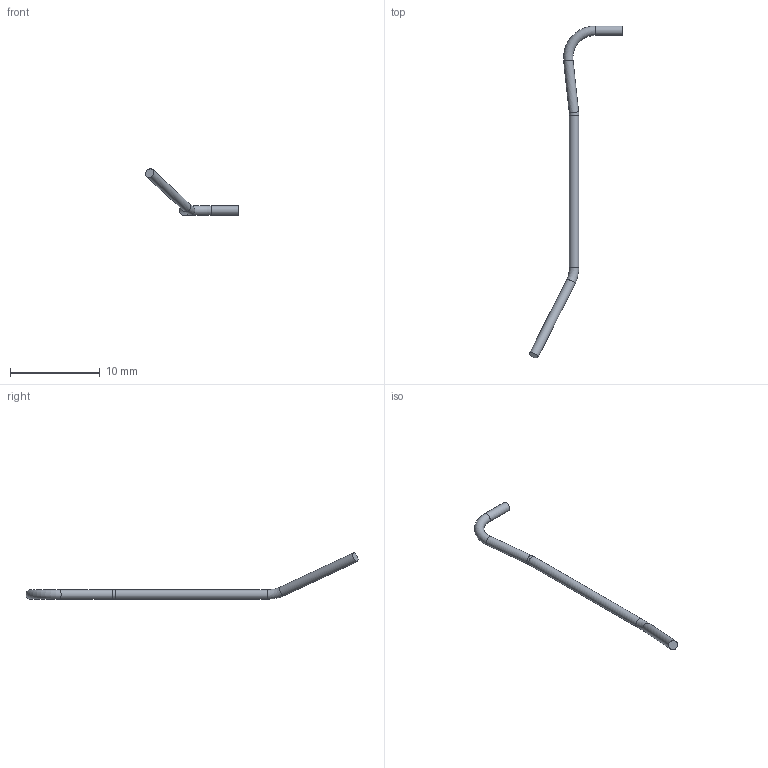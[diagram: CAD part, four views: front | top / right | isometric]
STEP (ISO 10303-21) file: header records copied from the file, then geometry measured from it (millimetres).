
FILE_DESCRIPTION(('Open CASCADE Model'),'2;1');
FILE_NAME('Open CASCADE Shape Model','2026-09-15T14:06:45',('Author'),( 'Open CASCADE'),'Open CASCADE STEP processor 7.7','Open CASCADE 7.7' ,'Unknown');
FILE_SCHEMA(('AUTOMOTIVE_DESIGN { 1 0 10303 214 1 1 1 1 }'));
Length unit declared in the file: millimetre
Products named in the file (1): J9_COMMON_BRANCH_3_OD1p05_R3
Bounding box: 10.38 x 36.97 x 5.16 mm (x, y, z)
Volume: 37.1 mm3; surface area: 142.9 mm2
Topology: 1 solids, 1 shells, 9 faces, 15 edges, 8 vertices
Faces by surface type: cylinder 4, torus 3, plane 2
Full cylindrical faces by diameter (mm): 1.05 x4
Entity records: 404 total; most frequent: CARTESIAN_POINT 76, DIRECTION 63, ORIENTED_EDGE 30, PCURVE 30, DEFINITIONAL_REPRESENTATION 30, AXIS2_PLACEMENT_3D 21, LINE 19, VECTOR 19
